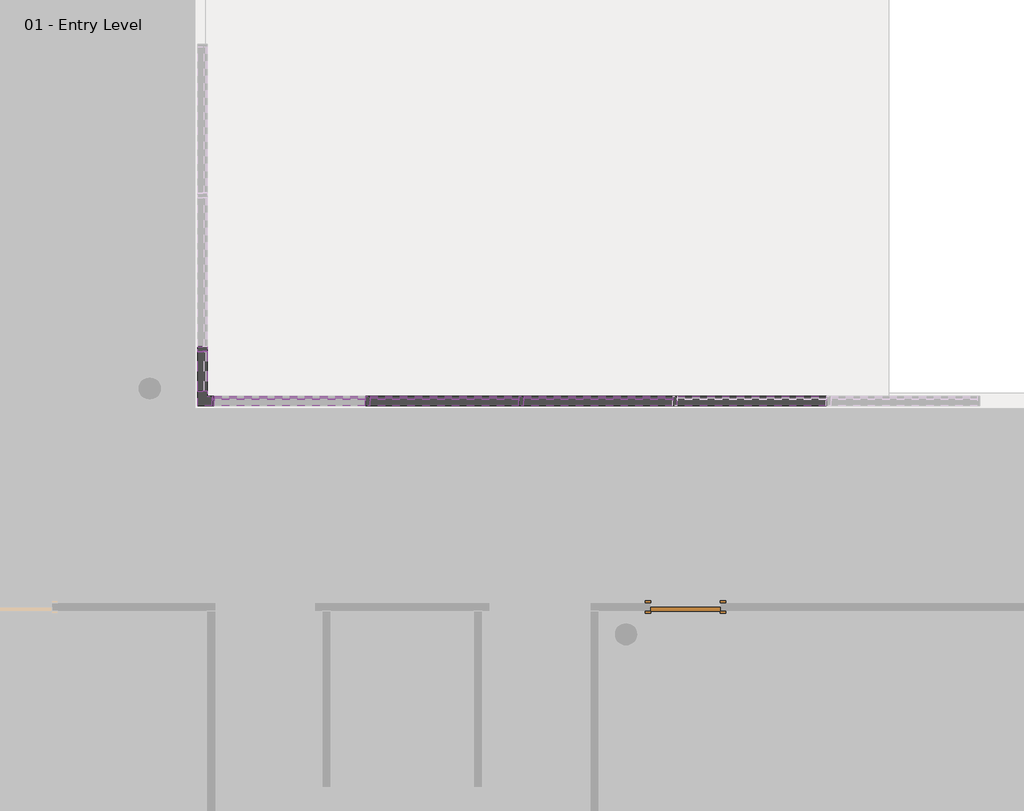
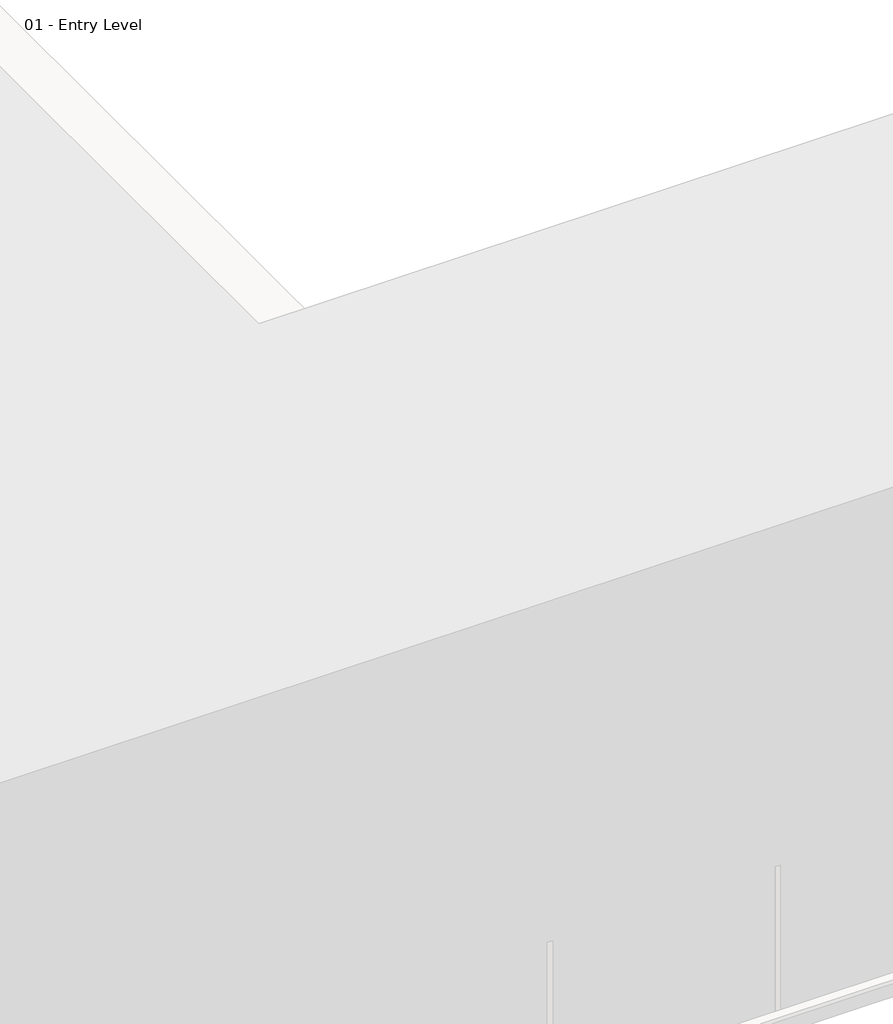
# One storey, part 9 of 35: 99 members, 27 plates, 1 door.
"""IFC4 building model written with IfcOpenShell, lengths in millimetres."""

from ifc_helpers import new_model, si_unit, origin, place, context, project, spatial, transform, mapped, element, save
from components import door_e5f9f3c4, member_863be36e, member_2b49869a, member_391b434c, member_9e90ae50, member_274b5bb4, member_3f1e2ae8, member_cfd492dc, member_3d213ca6, member_0f16ceef, member_ba732fc4, system_panel_glazed_1b9d6098, system_panel_glazed_70da479d, system_panel_glazed_75599714, system_panel_glazed_d6bfc804

model = new_model("IFC4")

# Units and contexts
model_context = context("Model", 3, world=origin())
ifc_project = project(units=[si_unit("LENGTHUNIT", "METRE", prefix="MILLI")], contexts=[model_context])

# Site, building, storey
site = spatial("IfcSite", under=ifc_project)
building = spatial("IfcBuilding", under=site)
storey = spatial("IfcBuildingStorey", under=building, Name="01 - Entry Level", Elevation=0.0)

# Door
placement = place(None, origin())
door_shape = door_e5f9f3c4(model_context)
element("IfcDoor", 1, ObjectType="Single-Flush : 36\" x 84\"", at=placement, inside=storey, context=model_context, shape_type="MappedRepresentation", body=[
    mapped(door_shape, transform((23572.1207476, 8277.15, 0.0), x_axis=(-1.0, 0.0, 0.0), y_axis=(0.0, -1.0, 0.0), z_axis=(0.0, 0.0, 1.0))),
])

# Members
member_shape = member_863be36e(model_context)
element("IfcMember", 2, ObjectType="L Corner Mullion : 5\" x 5\" Corner", at=placement, inside=storey, context=model_context, shape_type="MappedRepresentation", body=[
    mapped(member_shape, transform((17184.0207476, 11001.3, 6096.0), x_axis=(0.0, -1.0, 0.0), y_axis=(1.0, 0.0, 0.0), z_axis=(0.0, 0.0, 1.0))),
])
element("IfcMember", 3, ObjectType="L Corner Mullion : 5\" x 5\" Corner", at=placement, inside=storey, context=model_context, shape_type="MappedRepresentation", body=[
    mapped(member_shape, transform((17184.0207476, 11001.3, 1219.2), x_axis=(0.0, -1.0, 0.0), y_axis=(1.0, 0.0, 0.0), z_axis=(0.0, 0.0, 1.0))),
])
element("IfcMember", 4, ObjectType="L Corner Mullion : 5\" x 5\" Corner", at=placement, inside=storey, context=model_context, shape_type="MappedRepresentation", body=[
    mapped(member_shape, transform((17184.0207476, 11001.3, 8534.4), x_axis=(0.0, -1.0, 0.0), y_axis=(1.0, 0.0, 0.0), z_axis=(0.0, 0.0, 1.0))),
])
element("IfcMember", 5, ObjectType="L Corner Mullion : 5\" x 5\" Corner", at=placement, inside=storey, context=model_context, shape_type="MappedRepresentation", body=[
    mapped(member_shape, transform((17184.0207476, 11001.3, 2438.4), x_axis=(0.0, -1.0, 0.0), y_axis=(1.0, 0.0, 0.0), z_axis=(0.0, 0.0, 1.0))),
])
element("IfcMember", 6, ObjectType="L Corner Mullion : 5\" x 5\" Corner", at=placement, inside=storey, context=model_context, shape_type="MappedRepresentation", body=[
    mapped(member_shape, transform((17184.0207476, 11001.3, 3657.6), x_axis=(0.0, -1.0, 0.0), y_axis=(1.0, 0.0, 0.0), z_axis=(0.0, 0.0, 1.0))),
])
element("IfcMember", 7, ObjectType="L Corner Mullion : 5\" x 5\" Corner", at=placement, inside=storey, context=model_context, shape_type="MappedRepresentation", body=[
    mapped(member_shape, transform((17184.0207476, 11001.3, 4876.8), x_axis=(0.0, -1.0, 0.0), y_axis=(1.0, 0.0, 0.0), z_axis=(0.0, 0.0, 1.0))),
])
element("IfcMember", 8, ObjectType="L Corner Mullion : 5\" x 5\" Corner", at=placement, inside=storey, context=model_context, shape_type="MappedRepresentation", body=[
    mapped(member_shape, transform((17184.0207476, 11001.3, 9753.6), x_axis=(0.0, -1.0, 0.0), y_axis=(1.0, 0.0, 0.0), z_axis=(0.0, 0.0, 1.0))),
])
member_2_shape = member_2b49869a(model_context)
element("IfcMember", 9, ObjectType="Rectangular Mullion : 2.5\" x 5\" rectangular", at=placement, inside=storey, context=model_context, shape_type="MappedRepresentation", body=[
    mapped(member_2_shape, transform((21400.4207476, 11001.3, 9753.6), x_axis=(-1.0, 0.0, 0.0), y_axis=(0.0, 1.0, 0.0), z_axis=(0.0, 0.0, -1.0))),
])
element("IfcMember", 10, ObjectType="Rectangular Mullion : 2.5\" x 5\" rectangular", at=placement, inside=storey, context=model_context, shape_type="MappedRepresentation", body=[
    mapped(member_2_shape, transform((19368.4207476, 11001.3, 9753.6), x_axis=(-1.0, 0.0, 0.0), y_axis=(0.0, 1.0, 0.0), z_axis=(0.0, 0.0, -1.0))),
])
element("IfcMember", 11, ObjectType="Rectangular Mullion : 2.5\" x 5\" rectangular", at=placement, inside=storey, context=model_context, shape_type="MappedRepresentation", body=[
    mapped(member_2_shape, transform((17184.0207476, 11687.1, 9753.6), x_axis=(0.0, 1.0, 0.0), y_axis=(1.0, 0.0, 0.0), z_axis=(0.0, 0.0, -1.0))),
])
member_3_shape = member_391b434c(model_context)
element("IfcMember", 12, ObjectType="Rectangular Mullion : 2.5\" x 5\" rectangular", at=placement, inside=storey, context=model_context, shape_type="MappedRepresentation", body=[
    mapped(member_3_shape, transform((23464.1707476, 11001.3, 10972.8), x_axis=(0.0, 0.0, 1.0), y_axis=(0.0, 1.0, 0.0), z_axis=(-1.0, 0.0, 0.0))),
])
element("IfcMember", 13, ObjectType="Rectangular Mullion : 2.5\" x 5\" rectangular", at=placement, inside=storey, context=model_context, shape_type="MappedRepresentation", body=[
    mapped(member_3_shape, transform((21432.1707476, 11001.3, 10972.8), x_axis=(0.0, 0.0, 1.0), y_axis=(0.0, 1.0, 0.0), z_axis=(-1.0, 0.0, 0.0))),
])
element("IfcMember", 14, ObjectType="Rectangular Mullion : 2.5\" x 5\" rectangular", at=placement, inside=storey, context=model_context, shape_type="MappedRepresentation", body=[
    mapped(member_3_shape, transform((19400.1707476, 11001.3, 10972.8), x_axis=(0.0, 0.0, 1.0), y_axis=(0.0, 1.0, 0.0), z_axis=(-1.0, 0.0, 0.0))),
])
element("IfcMember", 15, ObjectType="Rectangular Mullion : 2.5\" x 5\" rectangular", at=placement, inside=storey, context=model_context, shape_type="MappedRepresentation", body=[
    mapped(member_3_shape, transform((23400.6707476, 11001.3, 0.0), x_axis=(0.0, 0.0, -1.0), y_axis=(0.0, 1.0, 0.0), z_axis=(1.0, 0.0, 0.0))),
])
element("IfcMember", 16, ObjectType="Rectangular Mullion : 2.5\" x 5\" rectangular", at=placement, inside=storey, context=model_context, shape_type="MappedRepresentation", body=[
    mapped(member_3_shape, transform((21368.6707476, 11001.3, 0.0), x_axis=(0.0, 0.0, -1.0), y_axis=(0.0, 1.0, 0.0), z_axis=(1.0, 0.0, 0.0))),
])
element("IfcMember", 17, ObjectType="Rectangular Mullion : 2.5\" x 5\" rectangular", at=placement, inside=storey, context=model_context, shape_type="MappedRepresentation", body=[
    mapped(member_3_shape, transform((17184.0207476, 11718.85, 0.0), x_axis=(0.0, 0.0, -1.0), y_axis=(1.0, 0.0, 0.0), z_axis=(0.0, -1.0, 0.0))),
])
member_4_shape = member_9e90ae50(model_context)
element("IfcMember", 18, ObjectType="Rectangular Mullion : 2.5\" x 5\" rectangular", at=placement, inside=storey, context=model_context, shape_type="MappedRepresentation", body=[
    mapped(member_4_shape, transform((23464.1707476, 11001.3, 1219.2), x_axis=(0.0, 0.0, 1.0), y_axis=(0.0, 1.0, 0.0), z_axis=(-1.0, 0.0, 0.0))),
])
element("IfcMember", 19, ObjectType="Rectangular Mullion : 2.5\" x 5\" rectangular", at=placement, inside=storey, context=model_context, shape_type="MappedRepresentation", body=[
    mapped(member_4_shape, transform((21432.1707476, 11001.3, 1219.2), x_axis=(0.0, 0.0, 1.0), y_axis=(0.0, 1.0, 0.0), z_axis=(-1.0, 0.0, 0.0))),
])
element("IfcMember", 20, ObjectType="Rectangular Mullion : 2.5\" x 5\" rectangular", at=placement, inside=storey, context=model_context, shape_type="MappedRepresentation", body=[
    mapped(member_4_shape, transform((19400.1707476, 11001.3, 1219.2), x_axis=(0.0, 0.0, 1.0), y_axis=(0.0, 1.0, 0.0), z_axis=(-1.0, 0.0, 0.0))),
])
element("IfcMember", 21, ObjectType="Rectangular Mullion : 2.5\" x 5\" rectangular", at=placement, inside=storey, context=model_context, shape_type="MappedRepresentation", body=[
    mapped(member_4_shape, transform((23464.1707476, 11001.3, 2438.4), x_axis=(0.0, 0.0, 1.0), y_axis=(0.0, 1.0, 0.0), z_axis=(-1.0, 0.0, 0.0))),
])
element("IfcMember", 22, ObjectType="Rectangular Mullion : 2.5\" x 5\" rectangular", at=placement, inside=storey, context=model_context, shape_type="MappedRepresentation", body=[
    mapped(member_4_shape, transform((21432.1707476, 11001.3, 2438.4), x_axis=(0.0, 0.0, 1.0), y_axis=(0.0, 1.0, 0.0), z_axis=(-1.0, 0.0, 0.0))),
])
element("IfcMember", 23, ObjectType="Rectangular Mullion : 2.5\" x 5\" rectangular", at=placement, inside=storey, context=model_context, shape_type="MappedRepresentation", body=[
    mapped(member_4_shape, transform((19400.1707476, 11001.3, 2438.4), x_axis=(0.0, 0.0, 1.0), y_axis=(0.0, 1.0, 0.0), z_axis=(-1.0, 0.0, 0.0))),
])
element("IfcMember", 24, ObjectType="Rectangular Mullion : 2.5\" x 5\" rectangular", at=placement, inside=storey, context=model_context, shape_type="MappedRepresentation", body=[
    mapped(member_4_shape, transform((23464.1707476, 11001.3, 3657.6), x_axis=(0.0, 0.0, 1.0), y_axis=(0.0, 1.0, 0.0), z_axis=(-1.0, 0.0, 0.0))),
])
element("IfcMember", 25, ObjectType="Rectangular Mullion : 2.5\" x 5\" rectangular", at=placement, inside=storey, context=model_context, shape_type="MappedRepresentation", body=[
    mapped(member_4_shape, transform((21432.1707476, 11001.3, 3657.6), x_axis=(0.0, 0.0, 1.0), y_axis=(0.0, 1.0, 0.0), z_axis=(-1.0, 0.0, 0.0))),
])
element("IfcMember", 26, ObjectType="Rectangular Mullion : 2.5\" x 5\" rectangular", at=placement, inside=storey, context=model_context, shape_type="MappedRepresentation", body=[
    mapped(member_4_shape, transform((19400.1707476, 11001.3, 3657.6), x_axis=(0.0, 0.0, 1.0), y_axis=(0.0, 1.0, 0.0), z_axis=(-1.0, 0.0, 0.0))),
])
element("IfcMember", 27, ObjectType="Rectangular Mullion : 2.5\" x 5\" rectangular", at=placement, inside=storey, context=model_context, shape_type="MappedRepresentation", body=[
    mapped(member_4_shape, transform((23464.1707476, 11001.3, 4876.8), x_axis=(0.0, 0.0, 1.0), y_axis=(0.0, 1.0, 0.0), z_axis=(-1.0, 0.0, 0.0))),
])
element("IfcMember", 28, ObjectType="Rectangular Mullion : 2.5\" x 5\" rectangular", at=placement, inside=storey, context=model_context, shape_type="MappedRepresentation", body=[
    mapped(member_4_shape, transform((21432.1707476, 11001.3, 4876.8), x_axis=(0.0, 0.0, 1.0), y_axis=(0.0, 1.0, 0.0), z_axis=(-1.0, 0.0, 0.0))),
])
element("IfcMember", 29, ObjectType="Rectangular Mullion : 2.5\" x 5\" rectangular", at=placement, inside=storey, context=model_context, shape_type="MappedRepresentation", body=[
    mapped(member_4_shape, transform((19400.1707476, 11001.3, 4876.8), x_axis=(0.0, 0.0, 1.0), y_axis=(0.0, 1.0, 0.0), z_axis=(-1.0, 0.0, 0.0))),
])
element("IfcMember", 30, ObjectType="Rectangular Mullion : 2.5\" x 5\" rectangular", at=placement, inside=storey, context=model_context, shape_type="MappedRepresentation", body=[
    mapped(member_4_shape, transform((23464.1707476, 11001.3, 6096.0), x_axis=(0.0, 0.0, 1.0), y_axis=(0.0, 1.0, 0.0), z_axis=(-1.0, 0.0, 0.0))),
])
element("IfcMember", 31, ObjectType="Rectangular Mullion : 2.5\" x 5\" rectangular", at=placement, inside=storey, context=model_context, shape_type="MappedRepresentation", body=[
    mapped(member_4_shape, transform((21432.1707476, 11001.3, 6096.0), x_axis=(0.0, 0.0, 1.0), y_axis=(0.0, 1.0, 0.0), z_axis=(-1.0, 0.0, 0.0))),
])
element("IfcMember", 32, ObjectType="Rectangular Mullion : 2.5\" x 5\" rectangular", at=placement, inside=storey, context=model_context, shape_type="MappedRepresentation", body=[
    mapped(member_4_shape, transform((19400.1707476, 11001.3, 6096.0), x_axis=(0.0, 0.0, 1.0), y_axis=(0.0, 1.0, 0.0), z_axis=(-1.0, 0.0, 0.0))),
])
element("IfcMember", 33, ObjectType="Rectangular Mullion : 2.5\" x 5\" rectangular", at=placement, inside=storey, context=model_context, shape_type="MappedRepresentation", body=[
    mapped(member_4_shape, transform((23464.1707476, 11001.3, 7315.2), x_axis=(0.0, 0.0, 1.0), y_axis=(0.0, 1.0, 0.0), z_axis=(-1.0, 0.0, 0.0))),
])
element("IfcMember", 34, ObjectType="Rectangular Mullion : 2.5\" x 5\" rectangular", at=placement, inside=storey, context=model_context, shape_type="MappedRepresentation", body=[
    mapped(member_4_shape, transform((21432.1707476, 11001.3, 7315.2), x_axis=(0.0, 0.0, 1.0), y_axis=(0.0, 1.0, 0.0), z_axis=(-1.0, 0.0, 0.0))),
])
element("IfcMember", 35, ObjectType="Rectangular Mullion : 2.5\" x 5\" rectangular", at=placement, inside=storey, context=model_context, shape_type="MappedRepresentation", body=[
    mapped(member_4_shape, transform((19400.1707476, 11001.3, 7315.2), x_axis=(0.0, 0.0, 1.0), y_axis=(0.0, 1.0, 0.0), z_axis=(-1.0, 0.0, 0.0))),
])
element("IfcMember", 36, ObjectType="Rectangular Mullion : 2.5\" x 5\" rectangular", at=placement, inside=storey, context=model_context, shape_type="MappedRepresentation", body=[
    mapped(member_4_shape, transform((23464.1707476, 11001.3, 8534.4), x_axis=(0.0, 0.0, 1.0), y_axis=(0.0, 1.0, 0.0), z_axis=(-1.0, 0.0, 0.0))),
])
element("IfcMember", 37, ObjectType="Rectangular Mullion : 2.5\" x 5\" rectangular", at=placement, inside=storey, context=model_context, shape_type="MappedRepresentation", body=[
    mapped(member_4_shape, transform((21432.1707476, 11001.3, 8534.4), x_axis=(0.0, 0.0, 1.0), y_axis=(0.0, 1.0, 0.0), z_axis=(-1.0, 0.0, 0.0))),
])
element("IfcMember", 38, ObjectType="Rectangular Mullion : 2.5\" x 5\" rectangular", at=placement, inside=storey, context=model_context, shape_type="MappedRepresentation", body=[
    mapped(member_4_shape, transform((19400.1707476, 11001.3, 8534.4), x_axis=(0.0, 0.0, 1.0), y_axis=(0.0, 1.0, 0.0), z_axis=(-1.0, 0.0, 0.0))),
])
element("IfcMember", 39, ObjectType="Rectangular Mullion : 2.5\" x 5\" rectangular", at=placement, inside=storey, context=model_context, shape_type="MappedRepresentation", body=[
    mapped(member_4_shape, transform((23464.1707476, 11001.3, 9753.6), x_axis=(0.0, 0.0, 1.0), y_axis=(0.0, 1.0, 0.0), z_axis=(-1.0, 0.0, 0.0))),
])
element("IfcMember", 40, ObjectType="Rectangular Mullion : 2.5\" x 5\" rectangular", at=placement, inside=storey, context=model_context, shape_type="MappedRepresentation", body=[
    mapped(member_4_shape, transform((21432.1707476, 11001.3, 9753.6), x_axis=(0.0, 0.0, 1.0), y_axis=(0.0, 1.0, 0.0), z_axis=(-1.0, 0.0, 0.0))),
])
element("IfcMember", 41, ObjectType="Rectangular Mullion : 2.5\" x 5\" rectangular", at=placement, inside=storey, context=model_context, shape_type="MappedRepresentation", body=[
    mapped(member_4_shape, transform((19400.1707476, 11001.3, 9753.6), x_axis=(0.0, 0.0, 1.0), y_axis=(0.0, 1.0, 0.0), z_axis=(-1.0, 0.0, 0.0))),
])
element("IfcMember", 42, ObjectType="Rectangular Mullion : 2.5\" x 5\" rectangular", at=placement, inside=storey, context=model_context, shape_type="MappedRepresentation", body=[
    mapped(member_2_shape, transform((23432.4207476, 11001.3, 0.0), x_axis=(-1.0, 0.0, 0.0), y_axis=(0.0, 1.0, 0.0), z_axis=(0.0, 0.0, -1.0))),
])
element("IfcMember", 43, ObjectType="Rectangular Mullion : 2.5\" x 5\" rectangular", at=placement, inside=storey, context=model_context, shape_type="MappedRepresentation", body=[
    mapped(member_2_shape, transform((21400.4207476, 11001.3, 0.0), x_axis=(-1.0, 0.0, 0.0), y_axis=(0.0, 1.0, 0.0), z_axis=(0.0, 0.0, -1.0))),
])
element("IfcMember", 44, ObjectType="Rectangular Mullion : 2.5\" x 5\" rectangular", at=placement, inside=storey, context=model_context, shape_type="MappedRepresentation", body=[
    mapped(member_2_shape, transform((19368.4207476, 11001.3, 0.0), x_axis=(-1.0, 0.0, 0.0), y_axis=(0.0, 1.0, 0.0), z_axis=(0.0, 0.0, -1.0))),
])
element("IfcMember", 45, ObjectType="Rectangular Mullion : 2.5\" x 5\" rectangular", at=placement, inside=storey, context=model_context, shape_type="MappedRepresentation", body=[
    mapped(member_2_shape, transform((17184.0207476, 11687.1, 0.0), x_axis=(0.0, 1.0, 0.0), y_axis=(1.0, 0.0, 0.0), z_axis=(0.0, 0.0, -1.0))),
])
element("IfcMember", 46, ObjectType="Rectangular Mullion : 2.5\" x 5\" rectangular", at=placement, inside=storey, context=model_context, shape_type="MappedRepresentation", body=[
    mapped(member_2_shape, transform((23432.4207476, 11001.3, 1219.2), x_axis=(-1.0, 0.0, 0.0), y_axis=(0.0, 1.0, 0.0), z_axis=(0.0, 0.0, -1.0))),
])
element("IfcMember", 47, ObjectType="Rectangular Mullion : 2.5\" x 5\" rectangular", at=placement, inside=storey, context=model_context, shape_type="MappedRepresentation", body=[
    mapped(member_2_shape, transform((21400.4207476, 11001.3, 1219.2), x_axis=(-1.0, 0.0, 0.0), y_axis=(0.0, 1.0, 0.0), z_axis=(0.0, 0.0, -1.0))),
])
element("IfcMember", 48, ObjectType="Rectangular Mullion : 2.5\" x 5\" rectangular", at=placement, inside=storey, context=model_context, shape_type="MappedRepresentation", body=[
    mapped(member_2_shape, transform((19368.4207476, 11001.3, 1219.2), x_axis=(-1.0, 0.0, 0.0), y_axis=(0.0, 1.0, 0.0), z_axis=(0.0, 0.0, -1.0))),
])
element("IfcMember", 49, ObjectType="Rectangular Mullion : 2.5\" x 5\" rectangular", at=placement, inside=storey, context=model_context, shape_type="MappedRepresentation", body=[
    mapped(member_2_shape, transform((23432.4207476, 11001.3, 2438.4), x_axis=(-1.0, 0.0, 0.0), y_axis=(0.0, 1.0, 0.0), z_axis=(0.0, 0.0, -1.0))),
])
element("IfcMember", 50, ObjectType="Rectangular Mullion : 2.5\" x 5\" rectangular", at=placement, inside=storey, context=model_context, shape_type="MappedRepresentation", body=[
    mapped(member_2_shape, transform((21400.4207476, 11001.3, 2438.4), x_axis=(-1.0, 0.0, 0.0), y_axis=(0.0, 1.0, 0.0), z_axis=(0.0, 0.0, -1.0))),
])
element("IfcMember", 51, ObjectType="Rectangular Mullion : 2.5\" x 5\" rectangular", at=placement, inside=storey, context=model_context, shape_type="MappedRepresentation", body=[
    mapped(member_2_shape, transform((19368.4207476, 11001.3, 2438.4), x_axis=(-1.0, 0.0, 0.0), y_axis=(0.0, 1.0, 0.0), z_axis=(0.0, 0.0, -1.0))),
])
element("IfcMember", 52, ObjectType="Rectangular Mullion : 2.5\" x 5\" rectangular", at=placement, inside=storey, context=model_context, shape_type="MappedRepresentation", body=[
    mapped(member_2_shape, transform((23432.4207476, 11001.3, 3657.6), x_axis=(-1.0, 0.0, 0.0), y_axis=(0.0, 1.0, 0.0), z_axis=(0.0, 0.0, -1.0))),
])
element("IfcMember", 53, ObjectType="Rectangular Mullion : 2.5\" x 5\" rectangular", at=placement, inside=storey, context=model_context, shape_type="MappedRepresentation", body=[
    mapped(member_2_shape, transform((21400.4207476, 11001.3, 3657.6), x_axis=(-1.0, 0.0, 0.0), y_axis=(0.0, 1.0, 0.0), z_axis=(0.0, 0.0, -1.0))),
])
element("IfcMember", 54, ObjectType="Rectangular Mullion : 2.5\" x 5\" rectangular", at=placement, inside=storey, context=model_context, shape_type="MappedRepresentation", body=[
    mapped(member_2_shape, transform((19368.4207476, 11001.3, 3657.6), x_axis=(-1.0, 0.0, 0.0), y_axis=(0.0, 1.0, 0.0), z_axis=(0.0, 0.0, -1.0))),
])
element("IfcMember", 55, ObjectType="Rectangular Mullion : 2.5\" x 5\" rectangular", at=placement, inside=storey, context=model_context, shape_type="MappedRepresentation", body=[
    mapped(member_2_shape, transform((23432.4207476, 11001.3, 4876.8), x_axis=(-1.0, 0.0, 0.0), y_axis=(0.0, 1.0, 0.0), z_axis=(0.0, 0.0, -1.0))),
])
element("IfcMember", 56, ObjectType="Rectangular Mullion : 2.5\" x 5\" rectangular", at=placement, inside=storey, context=model_context, shape_type="MappedRepresentation", body=[
    mapped(member_2_shape, transform((21400.4207476, 11001.3, 4876.8), x_axis=(-1.0, 0.0, 0.0), y_axis=(0.0, 1.0, 0.0), z_axis=(0.0, 0.0, -1.0))),
])
element("IfcMember", 57, ObjectType="Rectangular Mullion : 2.5\" x 5\" rectangular", at=placement, inside=storey, context=model_context, shape_type="MappedRepresentation", body=[
    mapped(member_2_shape, transform((19368.4207476, 11001.3, 4876.8), x_axis=(-1.0, 0.0, 0.0), y_axis=(0.0, 1.0, 0.0), z_axis=(0.0, 0.0, -1.0))),
])
element("IfcMember", 58, ObjectType="Rectangular Mullion : 2.5\" x 5\" rectangular", at=placement, inside=storey, context=model_context, shape_type="MappedRepresentation", body=[
    mapped(member_2_shape, transform((23432.4207476, 11001.3, 6096.0), x_axis=(-1.0, 0.0, 0.0), y_axis=(0.0, 1.0, 0.0), z_axis=(0.0, 0.0, -1.0))),
])
element("IfcMember", 59, ObjectType="Rectangular Mullion : 2.5\" x 5\" rectangular", at=placement, inside=storey, context=model_context, shape_type="MappedRepresentation", body=[
    mapped(member_2_shape, transform((21400.4207476, 11001.3, 6096.0), x_axis=(-1.0, 0.0, 0.0), y_axis=(0.0, 1.0, 0.0), z_axis=(0.0, 0.0, -1.0))),
])
element("IfcMember", 60, ObjectType="Rectangular Mullion : 2.5\" x 5\" rectangular", at=placement, inside=storey, context=model_context, shape_type="MappedRepresentation", body=[
    mapped(member_2_shape, transform((19368.4207476, 11001.3, 6096.0), x_axis=(-1.0, 0.0, 0.0), y_axis=(0.0, 1.0, 0.0), z_axis=(0.0, 0.0, -1.0))),
])
element("IfcMember", 61, ObjectType="Rectangular Mullion : 2.5\" x 5\" rectangular", at=placement, inside=storey, context=model_context, shape_type="MappedRepresentation", body=[
    mapped(member_2_shape, transform((23432.4207476, 11001.3, 7315.2), x_axis=(-1.0, 0.0, 0.0), y_axis=(0.0, 1.0, 0.0), z_axis=(0.0, 0.0, -1.0))),
])
element("IfcMember", 62, ObjectType="Rectangular Mullion : 2.5\" x 5\" rectangular", at=placement, inside=storey, context=model_context, shape_type="MappedRepresentation", body=[
    mapped(member_2_shape, transform((21400.4207476, 11001.3, 7315.2), x_axis=(-1.0, 0.0, 0.0), y_axis=(0.0, 1.0, 0.0), z_axis=(0.0, 0.0, -1.0))),
])
element("IfcMember", 63, ObjectType="Rectangular Mullion : 2.5\" x 5\" rectangular", at=placement, inside=storey, context=model_context, shape_type="MappedRepresentation", body=[
    mapped(member_2_shape, transform((19368.4207476, 11001.3, 7315.2), x_axis=(-1.0, 0.0, 0.0), y_axis=(0.0, 1.0, 0.0), z_axis=(0.0, 0.0, -1.0))),
])
element("IfcMember", 64, ObjectType="Rectangular Mullion : 2.5\" x 5\" rectangular", at=placement, inside=storey, context=model_context, shape_type="MappedRepresentation", body=[
    mapped(member_2_shape, transform((23432.4207476, 11001.3, 8534.4), x_axis=(-1.0, 0.0, 0.0), y_axis=(0.0, 1.0, 0.0), z_axis=(0.0, 0.0, -1.0))),
])
element("IfcMember", 65, ObjectType="Rectangular Mullion : 2.5\" x 5\" rectangular", at=placement, inside=storey, context=model_context, shape_type="MappedRepresentation", body=[
    mapped(member_2_shape, transform((21400.4207476, 11001.3, 8534.4), x_axis=(-1.0, 0.0, 0.0), y_axis=(0.0, 1.0, 0.0), z_axis=(0.0, 0.0, -1.0))),
])
element("IfcMember", 66, ObjectType="Rectangular Mullion : 2.5\" x 5\" rectangular", at=placement, inside=storey, context=model_context, shape_type="MappedRepresentation", body=[
    mapped(member_2_shape, transform((19368.4207476, 11001.3, 8534.4), x_axis=(-1.0, 0.0, 0.0), y_axis=(0.0, 1.0, 0.0), z_axis=(0.0, 0.0, -1.0))),
])
element("IfcMember", 67, ObjectType="Rectangular Mullion : 2.5\" x 5\" rectangular", at=placement, inside=storey, context=model_context, shape_type="MappedRepresentation", body=[
    mapped(member_2_shape, transform((17184.0207476, 11687.1, 1219.2), x_axis=(0.0, 1.0, 0.0), y_axis=(1.0, 0.0, 0.0), z_axis=(0.0, 0.0, -1.0))),
])
element("IfcMember", 68, ObjectType="Rectangular Mullion : 2.5\" x 5\" rectangular", at=placement, inside=storey, context=model_context, shape_type="MappedRepresentation", body=[
    mapped(member_2_shape, transform((17184.0207476, 11687.1, 2438.4), x_axis=(0.0, 1.0, 0.0), y_axis=(1.0, 0.0, 0.0), z_axis=(0.0, 0.0, -1.0))),
])
element("IfcMember", 69, ObjectType="Rectangular Mullion : 2.5\" x 5\" rectangular", at=placement, inside=storey, context=model_context, shape_type="MappedRepresentation", body=[
    mapped(member_2_shape, transform((17184.0207476, 11687.1, 3657.6), x_axis=(0.0, 1.0, 0.0), y_axis=(1.0, 0.0, 0.0), z_axis=(0.0, 0.0, -1.0))),
])
element("IfcMember", 70, ObjectType="Rectangular Mullion : 2.5\" x 5\" rectangular", at=placement, inside=storey, context=model_context, shape_type="MappedRepresentation", body=[
    mapped(member_2_shape, transform((17184.0207476, 11687.1, 4876.8), x_axis=(0.0, 1.0, 0.0), y_axis=(1.0, 0.0, 0.0), z_axis=(0.0, 0.0, -1.0))),
])
element("IfcMember", 71, ObjectType="Rectangular Mullion : 2.5\" x 5\" rectangular", at=placement, inside=storey, context=model_context, shape_type="MappedRepresentation", body=[
    mapped(member_2_shape, transform((17184.0207476, 11687.1, 6096.0), x_axis=(0.0, 1.0, 0.0), y_axis=(1.0, 0.0, 0.0), z_axis=(0.0, 0.0, -1.0))),
])
element("IfcMember", 72, ObjectType="Rectangular Mullion : 2.5\" x 5\" rectangular", at=placement, inside=storey, context=model_context, shape_type="MappedRepresentation", body=[
    mapped(member_2_shape, transform((17184.0207476, 11687.1, 7315.2), x_axis=(0.0, 1.0, 0.0), y_axis=(1.0, 0.0, 0.0), z_axis=(0.0, 0.0, -1.0))),
])
element("IfcMember", 73, ObjectType="Rectangular Mullion : 2.5\" x 5\" rectangular", at=placement, inside=storey, context=model_context, shape_type="MappedRepresentation", body=[
    mapped(member_2_shape, transform((17184.0207476, 11687.1, 8534.4), x_axis=(0.0, 1.0, 0.0), y_axis=(1.0, 0.0, 0.0), z_axis=(0.0, 0.0, -1.0))),
])
member_5_shape = member_274b5bb4(model_context)
element("IfcMember", 74, ObjectType="Rectangular Mullion : 2.5\" x 5\" rectangular", at=placement, inside=storey, context=model_context, shape_type="MappedRepresentation", body=[
    mapped(member_5_shape, transform((17184.0207476, 11655.35, 10972.8), x_axis=(0.0, 0.0, 1.0), y_axis=(1.0, 0.0, 0.0), z_axis=(0.0, 1.0, 0.0))),
])
member_6_shape = member_3f1e2ae8(model_context)
element("IfcMember", 75, ObjectType="Rectangular Mullion : 2.5\" x 5\" rectangular", at=placement, inside=storey, context=model_context, shape_type="MappedRepresentation", body=[
    mapped(member_6_shape, transform((17184.0207476, 11655.35, 1219.2), x_axis=(0.0, 0.0, 1.0), y_axis=(1.0, 0.0, 0.0), z_axis=(0.0, 1.0, 0.0))),
])
element("IfcMember", 76, ObjectType="Rectangular Mullion : 2.5\" x 5\" rectangular", at=placement, inside=storey, context=model_context, shape_type="MappedRepresentation", body=[
    mapped(member_6_shape, transform((17184.0207476, 11655.35, 2438.4), x_axis=(0.0, 0.0, 1.0), y_axis=(1.0, 0.0, 0.0), z_axis=(0.0, 1.0, 0.0))),
])
element("IfcMember", 77, ObjectType="Rectangular Mullion : 2.5\" x 5\" rectangular", at=placement, inside=storey, context=model_context, shape_type="MappedRepresentation", body=[
    mapped(member_6_shape, transform((17184.0207476, 11655.35, 3657.6), x_axis=(0.0, 0.0, 1.0), y_axis=(1.0, 0.0, 0.0), z_axis=(0.0, 1.0, 0.0))),
])
element("IfcMember", 78, ObjectType="Rectangular Mullion : 2.5\" x 5\" rectangular", at=placement, inside=storey, context=model_context, shape_type="MappedRepresentation", body=[
    mapped(member_6_shape, transform((17184.0207476, 11655.35, 4876.8), x_axis=(0.0, 0.0, 1.0), y_axis=(1.0, 0.0, 0.0), z_axis=(0.0, 1.0, 0.0))),
])
element("IfcMember", 79, ObjectType="Rectangular Mullion : 2.5\" x 5\" rectangular", at=placement, inside=storey, context=model_context, shape_type="MappedRepresentation", body=[
    mapped(member_6_shape, transform((17184.0207476, 11655.35, 6096.0), x_axis=(0.0, 0.0, 1.0), y_axis=(1.0, 0.0, 0.0), z_axis=(0.0, 1.0, 0.0))),
])
element("IfcMember", 80, ObjectType="Rectangular Mullion : 2.5\" x 5\" rectangular", at=placement, inside=storey, context=model_context, shape_type="MappedRepresentation", body=[
    mapped(member_6_shape, transform((17184.0207476, 11655.35, 7315.2), x_axis=(0.0, 0.0, 1.0), y_axis=(1.0, 0.0, 0.0), z_axis=(0.0, 1.0, 0.0))),
])
element("IfcMember", 81, ObjectType="Rectangular Mullion : 2.5\" x 5\" rectangular", at=placement, inside=storey, context=model_context, shape_type="MappedRepresentation", body=[
    mapped(member_6_shape, transform((17184.0207476, 11655.35, 8534.4), x_axis=(0.0, 0.0, 1.0), y_axis=(1.0, 0.0, 0.0), z_axis=(0.0, 1.0, 0.0))),
])
element("IfcMember", 82, ObjectType="Rectangular Mullion : 2.5\" x 5\" rectangular", at=placement, inside=storey, context=model_context, shape_type="MappedRepresentation", body=[
    mapped(member_6_shape, transform((17184.0207476, 11655.35, 9753.6), x_axis=(0.0, 0.0, 1.0), y_axis=(1.0, 0.0, 0.0), z_axis=(0.0, 1.0, 0.0))),
])
member_7_shape = member_cfd492dc(model_context)
element("IfcMember", 83, ObjectType="Rectangular Mullion : 2.5\" x 5\" rectangular", at=placement, inside=storey, context=model_context, shape_type="MappedRepresentation", body=[
    mapped(member_7_shape, transform((17336.4207476, 11001.3, 10972.8), x_axis=(0.0, 0.0, 1.0), y_axis=(0.0, 1.0, 0.0), z_axis=(-1.0, 0.0, 0.0))),
])
member_8_shape = member_3d213ca6(model_context)
element("IfcMember", 84, ObjectType="Rectangular Mullion : 2.5\" x 5\" rectangular", at=placement, inside=storey, context=model_context, shape_type="MappedRepresentation", body=[
    mapped(member_8_shape, transform((17336.4207476, 11001.3, 2438.4), x_axis=(0.0, 0.0, 1.0), y_axis=(0.0, 1.0, 0.0), z_axis=(-1.0, 0.0, 0.0))),
])
element("IfcMember", 85, ObjectType="Rectangular Mullion : 2.5\" x 5\" rectangular", at=placement, inside=storey, context=model_context, shape_type="MappedRepresentation", body=[
    mapped(member_8_shape, transform((17336.4207476, 11001.3, 3657.6), x_axis=(0.0, 0.0, 1.0), y_axis=(0.0, 1.0, 0.0), z_axis=(-1.0, 0.0, 0.0))),
])
element("IfcMember", 86, ObjectType="Rectangular Mullion : 2.5\" x 5\" rectangular", at=placement, inside=storey, context=model_context, shape_type="MappedRepresentation", body=[
    mapped(member_8_shape, transform((17336.4207476, 11001.3, 4876.8), x_axis=(0.0, 0.0, 1.0), y_axis=(0.0, 1.0, 0.0), z_axis=(-1.0, 0.0, 0.0))),
])
element("IfcMember", 87, ObjectType="Rectangular Mullion : 2.5\" x 5\" rectangular", at=placement, inside=storey, context=model_context, shape_type="MappedRepresentation", body=[
    mapped(member_8_shape, transform((17336.4207476, 11001.3, 6096.0), x_axis=(0.0, 0.0, 1.0), y_axis=(0.0, 1.0, 0.0), z_axis=(-1.0, 0.0, 0.0))),
])
element("IfcMember", 88, ObjectType="Rectangular Mullion : 2.5\" x 5\" rectangular", at=placement, inside=storey, context=model_context, shape_type="MappedRepresentation", body=[
    mapped(member_8_shape, transform((17336.4207476, 11001.3, 7315.2), x_axis=(0.0, 0.0, 1.0), y_axis=(0.0, 1.0, 0.0), z_axis=(-1.0, 0.0, 0.0))),
])
element("IfcMember", 89, ObjectType="Rectangular Mullion : 2.5\" x 5\" rectangular", at=placement, inside=storey, context=model_context, shape_type="MappedRepresentation", body=[
    mapped(member_8_shape, transform((17336.4207476, 11001.3, 8534.4), x_axis=(0.0, 0.0, 1.0), y_axis=(0.0, 1.0, 0.0), z_axis=(-1.0, 0.0, 0.0))),
])
element("IfcMember", 90, ObjectType="Rectangular Mullion : 2.5\" x 5\" rectangular", at=placement, inside=storey, context=model_context, shape_type="MappedRepresentation", body=[
    mapped(member_8_shape, transform((17336.4207476, 11001.3, 9753.6), x_axis=(0.0, 0.0, 1.0), y_axis=(0.0, 1.0, 0.0), z_axis=(-1.0, 0.0, 0.0))),
])
element("IfcMember", 91, ObjectType="Rectangular Mullion : 2.5\" x 5\" rectangular", at=placement, inside=storey, context=model_context, shape_type="MappedRepresentation", body=[
    mapped(member_7_shape, transform((19336.6707476, 11001.3, 0.0), x_axis=(0.0, 0.0, -1.0), y_axis=(0.0, 1.0, 0.0), z_axis=(1.0, 0.0, 0.0))),
])
member_9_shape = member_0f16ceef(model_context)
element("IfcMember", 92, ObjectType="Rectangular Mullion : 2.5\" x 5\" rectangular", at=placement, inside=storey, context=model_context, shape_type="MappedRepresentation", body=[
    mapped(member_9_shape, transform((17311.0207476, 11001.3, 1219.2), x_axis=(0.0, 0.0, 1.0), y_axis=(0.0, 1.0, 0.0), z_axis=(-1.0, 0.0, 0.0))),
])
element("IfcMember", 93, ObjectType="Rectangular Mullion : 2.5\" x 5\" rectangular", at=placement, inside=storey, context=model_context, shape_type="MappedRepresentation", body=[
    mapped(member_9_shape, transform((17311.0207476, 11001.3, 2438.4), x_axis=(0.0, 0.0, 1.0), y_axis=(0.0, 1.0, 0.0), z_axis=(-1.0, 0.0, 0.0))),
])
element("IfcMember", 94, ObjectType="Rectangular Mullion : 2.5\" x 5\" rectangular", at=placement, inside=storey, context=model_context, shape_type="MappedRepresentation", body=[
    mapped(member_9_shape, transform((17311.0207476, 11001.3, 3657.6), x_axis=(0.0, 0.0, 1.0), y_axis=(0.0, 1.0, 0.0), z_axis=(-1.0, 0.0, 0.0))),
])
element("IfcMember", 95, ObjectType="Rectangular Mullion : 2.5\" x 5\" rectangular", at=placement, inside=storey, context=model_context, shape_type="MappedRepresentation", body=[
    mapped(member_9_shape, transform((17311.0207476, 11001.3, 4876.8), x_axis=(0.0, 0.0, 1.0), y_axis=(0.0, 1.0, 0.0), z_axis=(-1.0, 0.0, 0.0))),
])
element("IfcMember", 96, ObjectType="Rectangular Mullion : 2.5\" x 5\" rectangular", at=placement, inside=storey, context=model_context, shape_type="MappedRepresentation", body=[
    mapped(member_9_shape, transform((17311.0207476, 11001.3, 6096.0), x_axis=(0.0, 0.0, 1.0), y_axis=(0.0, 1.0, 0.0), z_axis=(-1.0, 0.0, 0.0))),
])
element("IfcMember", 97, ObjectType="Rectangular Mullion : 2.5\" x 5\" rectangular", at=placement, inside=storey, context=model_context, shape_type="MappedRepresentation", body=[
    mapped(member_9_shape, transform((17311.0207476, 11001.3, 7315.2), x_axis=(0.0, 0.0, 1.0), y_axis=(0.0, 1.0, 0.0), z_axis=(-1.0, 0.0, 0.0))),
])
element("IfcMember", 98, ObjectType="Rectangular Mullion : 2.5\" x 5\" rectangular", at=placement, inside=storey, context=model_context, shape_type="MappedRepresentation", body=[
    mapped(member_9_shape, transform((17311.0207476, 11001.3, 8534.4), x_axis=(0.0, 0.0, 1.0), y_axis=(0.0, 1.0, 0.0), z_axis=(-1.0, 0.0, 0.0))),
])
element("IfcMember", 99, ObjectType="Rectangular Mullion : 2.5\" x 5\" rectangular", at=placement, inside=storey, context=model_context, shape_type="MappedRepresentation", body=[
    mapped(member_9_shape, transform((17311.0207476, 11001.3, 9753.6), x_axis=(0.0, 0.0, 1.0), y_axis=(0.0, 1.0, 0.0), z_axis=(-1.0, 0.0, 0.0))),
])
member_10_shape = member_ba732fc4(model_context)
element("IfcMember", 100, ObjectType="Rectangular Mullion : 2.5\" x 5\" rectangular", at=placement, inside=storey, context=model_context, shape_type="MappedRepresentation", body=[
    mapped(member_10_shape, transform((17336.4207476, 11001.3, 0.0), x_axis=(0.0, 0.0, -1.0), y_axis=(0.0, 1.0, 0.0), z_axis=(1.0, 0.0, 0.0))),
])

# Plates
system_panel_glazed_shape = system_panel_glazed_1b9d6098(model_context)
element("IfcPlate", 101, ObjectType="System Panel : Glazed", at=placement, inside=storey, context=model_context, shape_type="MappedRepresentation", body=[
    mapped(system_panel_glazed_shape, transform((22416.4207476, 11001.3, 63.5), x_axis=(-1.0, 0.0, 0.0), y_axis=(0.0, -1.0, 0.0), z_axis=(0.0, 0.0, 1.0))),
])
element("IfcPlate", 102, ObjectType="System Panel : Glazed", at=placement, inside=storey, context=model_context, shape_type="MappedRepresentation", body=[
    mapped(system_panel_glazed_shape, transform((20384.4207476, 11001.3, 63.5), x_axis=(-1.0, 0.0, 0.0), y_axis=(0.0, -1.0, 0.0), z_axis=(0.0, 0.0, 1.0))),
])
element("IfcPlate", 103, ObjectType="System Panel : Glazed", at=placement, inside=storey, context=model_context, shape_type="MappedRepresentation", body=[
    mapped(system_panel_glazed_shape, transform((22416.4207476, 11001.3, 9785.35), x_axis=(-1.0, 0.0, 0.0), y_axis=(0.0, -1.0, 0.0), z_axis=(0.0, 0.0, 1.0))),
])
element("IfcPlate", 104, ObjectType="System Panel : Glazed", at=placement, inside=storey, context=model_context, shape_type="MappedRepresentation", body=[
    mapped(system_panel_glazed_shape, transform((20384.4207476, 11001.3, 9785.35), x_axis=(-1.0, 0.0, 0.0), y_axis=(0.0, -1.0, 0.0), z_axis=(0.0, 0.0, 1.0))),
])
system_panel_glazed_2_shape = system_panel_glazed_70da479d(model_context)
element("IfcPlate", 105, ObjectType="System Panel : Glazed", at=placement, inside=storey, context=model_context, shape_type="MappedRepresentation", body=[
    mapped(system_panel_glazed_2_shape, transform((22416.4207476, 11001.3, 1250.95), x_axis=(-1.0, 0.0, 0.0), y_axis=(0.0, -1.0, 0.0), z_axis=(0.0, 0.0, 1.0))),
])
element("IfcPlate", 106, ObjectType="System Panel : Glazed", at=placement, inside=storey, context=model_context, shape_type="MappedRepresentation", body=[
    mapped(system_panel_glazed_2_shape, transform((20384.4207476, 11001.3, 1250.95), x_axis=(-1.0, 0.0, 0.0), y_axis=(0.0, -1.0, 0.0), z_axis=(0.0, 0.0, 1.0))),
])
element("IfcPlate", 107, ObjectType="System Panel : Glazed", at=placement, inside=storey, context=model_context, shape_type="MappedRepresentation", body=[
    mapped(system_panel_glazed_2_shape, transform((22416.4207476, 11001.3, 2470.15), x_axis=(-1.0, 0.0, 0.0), y_axis=(0.0, -1.0, 0.0), z_axis=(0.0, 0.0, 1.0))),
])
element("IfcPlate", 108, ObjectType="System Panel : Glazed", at=placement, inside=storey, context=model_context, shape_type="MappedRepresentation", body=[
    mapped(system_panel_glazed_2_shape, transform((20384.4207476, 11001.3, 2470.15), x_axis=(-1.0, 0.0, 0.0), y_axis=(0.0, -1.0, 0.0), z_axis=(0.0, 0.0, 1.0))),
])
element("IfcPlate", 109, ObjectType="System Panel : Glazed", at=placement, inside=storey, context=model_context, shape_type="MappedRepresentation", body=[
    mapped(system_panel_glazed_2_shape, transform((22416.4207476, 11001.3, 3689.35), x_axis=(-1.0, 0.0, 0.0), y_axis=(0.0, -1.0, 0.0), z_axis=(0.0, 0.0, 1.0))),
])
element("IfcPlate", 110, ObjectType="System Panel : Glazed", at=placement, inside=storey, context=model_context, shape_type="MappedRepresentation", body=[
    mapped(system_panel_glazed_2_shape, transform((20384.4207476, 11001.3, 3689.35), x_axis=(-1.0, 0.0, 0.0), y_axis=(0.0, -1.0, 0.0), z_axis=(0.0, 0.0, 1.0))),
])
element("IfcPlate", 111, ObjectType="System Panel : Glazed", at=placement, inside=storey, context=model_context, shape_type="MappedRepresentation", body=[
    mapped(system_panel_glazed_2_shape, transform((22416.4207476, 11001.3, 4908.55), x_axis=(-1.0, 0.0, 0.0), y_axis=(0.0, -1.0, 0.0), z_axis=(0.0, 0.0, 1.0))),
])
element("IfcPlate", 112, ObjectType="System Panel : Glazed", at=placement, inside=storey, context=model_context, shape_type="MappedRepresentation", body=[
    mapped(system_panel_glazed_2_shape, transform((20384.4207476, 11001.3, 4908.55), x_axis=(-1.0, 0.0, 0.0), y_axis=(0.0, -1.0, 0.0), z_axis=(0.0, 0.0, 1.0))),
])
element("IfcPlate", 113, ObjectType="System Panel : Glazed", at=placement, inside=storey, context=model_context, shape_type="MappedRepresentation", body=[
    mapped(system_panel_glazed_2_shape, transform((22416.4207476, 11001.3, 6127.75), x_axis=(-1.0, 0.0, 0.0), y_axis=(0.0, -1.0, 0.0), z_axis=(0.0, 0.0, 1.0))),
])
element("IfcPlate", 114, ObjectType="System Panel : Glazed", at=placement, inside=storey, context=model_context, shape_type="MappedRepresentation", body=[
    mapped(system_panel_glazed_2_shape, transform((20384.4207476, 11001.3, 6127.75), x_axis=(-1.0, 0.0, 0.0), y_axis=(0.0, -1.0, 0.0), z_axis=(0.0, 0.0, 1.0))),
])
element("IfcPlate", 115, ObjectType="System Panel : Glazed", at=placement, inside=storey, context=model_context, shape_type="MappedRepresentation", body=[
    mapped(system_panel_glazed_2_shape, transform((22416.4207476, 11001.3, 7346.95), x_axis=(-1.0, 0.0, 0.0), y_axis=(0.0, -1.0, 0.0), z_axis=(0.0, 0.0, 1.0))),
])
element("IfcPlate", 116, ObjectType="System Panel : Glazed", at=placement, inside=storey, context=model_context, shape_type="MappedRepresentation", body=[
    mapped(system_panel_glazed_2_shape, transform((20384.4207476, 11001.3, 7346.95), x_axis=(-1.0, 0.0, 0.0), y_axis=(0.0, -1.0, 0.0), z_axis=(0.0, 0.0, 1.0))),
])
element("IfcPlate", 117, ObjectType="System Panel : Glazed", at=placement, inside=storey, context=model_context, shape_type="MappedRepresentation", body=[
    mapped(system_panel_glazed_2_shape, transform((22416.4207476, 11001.3, 8566.15), x_axis=(-1.0, 0.0, 0.0), y_axis=(0.0, -1.0, 0.0), z_axis=(0.0, 0.0, 1.0))),
])
element("IfcPlate", 118, ObjectType="System Panel : Glazed", at=placement, inside=storey, context=model_context, shape_type="MappedRepresentation", body=[
    mapped(system_panel_glazed_2_shape, transform((20384.4207476, 11001.3, 8566.15), x_axis=(-1.0, 0.0, 0.0), y_axis=(0.0, -1.0, 0.0), z_axis=(0.0, 0.0, 1.0))),
])
system_panel_glazed_3_shape = system_panel_glazed_75599714(model_context)
element("IfcPlate", 119, ObjectType="System Panel : Glazed", at=placement, inside=storey, context=model_context, shape_type="MappedRepresentation", body=[
    mapped(system_panel_glazed_3_shape, transform((18323.8457476, 11001.3, 1250.95), x_axis=(-1.0, 0.0, 0.0), y_axis=(0.0, -1.0, 0.0), z_axis=(0.0, 0.0, 1.0))),
])
element("IfcPlate", 120, ObjectType="System Panel : Glazed", at=placement, inside=storey, context=model_context, shape_type="MappedRepresentation", body=[
    mapped(system_panel_glazed_3_shape, transform((18323.8457476, 11001.3, 2470.15), x_axis=(-1.0, 0.0, 0.0), y_axis=(0.0, -1.0, 0.0), z_axis=(0.0, 0.0, 1.0))),
])
element("IfcPlate", 121, ObjectType="System Panel : Glazed", at=placement, inside=storey, context=model_context, shape_type="MappedRepresentation", body=[
    mapped(system_panel_glazed_3_shape, transform((18323.8457476, 11001.3, 3689.35), x_axis=(-1.0, 0.0, 0.0), y_axis=(0.0, -1.0, 0.0), z_axis=(0.0, 0.0, 1.0))),
])
element("IfcPlate", 122, ObjectType="System Panel : Glazed", at=placement, inside=storey, context=model_context, shape_type="MappedRepresentation", body=[
    mapped(system_panel_glazed_3_shape, transform((18323.8457476, 11001.3, 4908.55), x_axis=(-1.0, 0.0, 0.0), y_axis=(0.0, -1.0, 0.0), z_axis=(0.0, 0.0, 1.0))),
])
element("IfcPlate", 123, ObjectType="System Panel : Glazed", at=placement, inside=storey, context=model_context, shape_type="MappedRepresentation", body=[
    mapped(system_panel_glazed_3_shape, transform((18323.8457476, 11001.3, 6127.75), x_axis=(-1.0, 0.0, 0.0), y_axis=(0.0, -1.0, 0.0), z_axis=(0.0, 0.0, 1.0))),
])
element("IfcPlate", 124, ObjectType="System Panel : Glazed", at=placement, inside=storey, context=model_context, shape_type="MappedRepresentation", body=[
    mapped(system_panel_glazed_3_shape, transform((18323.8457476, 11001.3, 7346.95), x_axis=(-1.0, 0.0, 0.0), y_axis=(0.0, -1.0, 0.0), z_axis=(0.0, 0.0, 1.0))),
])
element("IfcPlate", 125, ObjectType="System Panel : Glazed", at=placement, inside=storey, context=model_context, shape_type="MappedRepresentation", body=[
    mapped(system_panel_glazed_3_shape, transform((18323.8457476, 11001.3, 8566.15), x_axis=(-1.0, 0.0, 0.0), y_axis=(0.0, -1.0, 0.0), z_axis=(0.0, 0.0, 1.0))),
])
system_panel_glazed_4_shape = system_panel_glazed_d6bfc804(model_context)
element("IfcPlate", 126, ObjectType="System Panel : Glazed", at=placement, inside=storey, context=model_context, shape_type="MappedRepresentation", body=[
    mapped(system_panel_glazed_4_shape, transform((18323.8457476, 11001.3, 63.5), x_axis=(-1.0, 0.0, 0.0), y_axis=(0.0, -1.0, 0.0), z_axis=(0.0, 0.0, 1.0))),
])
element("IfcPlate", 127, ObjectType="System Panel : Glazed", at=placement, inside=storey, context=model_context, shape_type="MappedRepresentation", body=[
    mapped(system_panel_glazed_4_shape, transform((18323.8457476, 11001.3, 9785.35), x_axis=(-1.0, 0.0, 0.0), y_axis=(0.0, -1.0, 0.0), z_axis=(0.0, 0.0, 1.0))),
])

save(model, "model.ifc")
